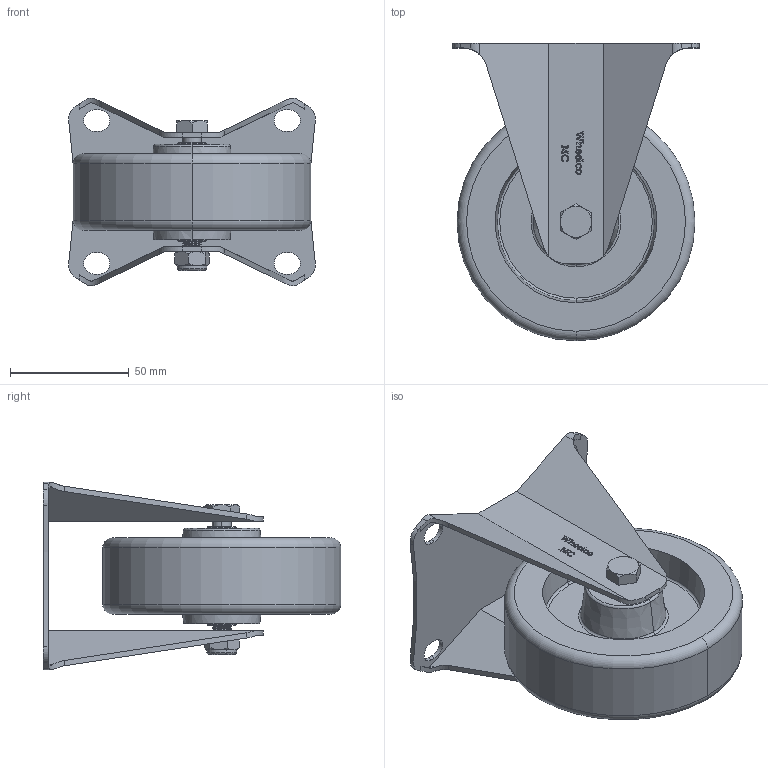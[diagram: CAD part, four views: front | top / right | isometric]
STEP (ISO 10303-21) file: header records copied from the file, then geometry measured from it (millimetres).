
FILE_DESCRIPTION (( 'STEP AP214' ), '1' );
FILE_NAME ('MCU100-F.step', '2023-11-29T20:28:05', ( '' ), ( '' ), 'SwSTEP 2.0', 'SolidWorks 2022', '' );
FILE_SCHEMA (( 'AUTOMOTIVE_DESIGN' ));
Length unit declared in the file: millimetre
Products named in the file (6): MC100-F; M8x55; SP12-8-41; MCU100-F; M8Nyloc; MCU100
Assembly tree (5 placements, depth 2):
  MCU100-F
    MC100-F
    M8x55
    M8Nyloc
    SP12-8-41
    MCU100
Bounding box: 103.72 x 125 x 78.91 mm (x, y, z)
Volume: 227477 mm3; surface area: 72528.8 mm2
Topology: 5 solids, 5 shells, 409 faces, 1110 edges, 731 vertices
Faces by surface type: plane 173, cylinder 120, bspline 70, cone 28, torus 16, sphere 2
Entity records: 21928 total; most frequent: CARTESIAN_POINT 11859, ORIENTED_EDGE 2220, DIRECTION 1639, EDGE_CURVE 1110, VERTEX_POINT 731, VECTOR 615, LINE 615, AXIS2_PLACEMENT_3D 512
